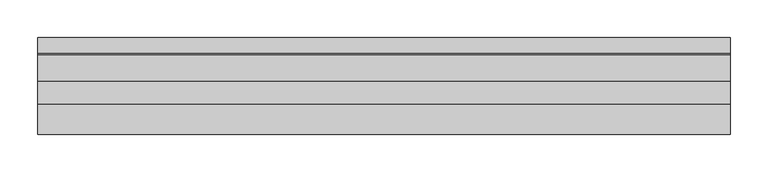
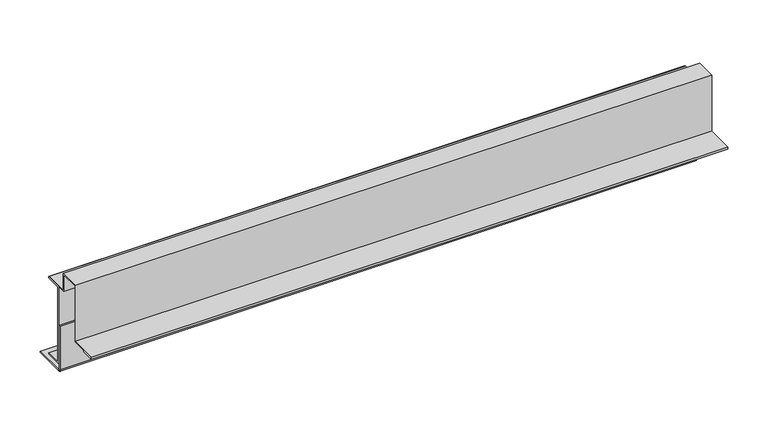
"""IFC4 building model written with IfcOpenShell, lengths in millimetres: proxy geometry, АК7_1 верх Обрамление оконного_дверного проема : АК7_1 верх Обрамление оконного_дверного проема."""

from ifc_helpers import new_model, si_unit, point, frame, frame_2d, origin, place, context, project, spatial, polyline, circle_curve, trimmed, segment, composite_curve, outline, extrude, source, transform, mapped, element, save


def generic_models_594ef7aa(model_context):
    return source(origin(), model_context, "Body", "SweptSolid", [
        extrude(outline(composite_curve([segment(polyline([(29.8704378, -153.0), (29.8704378, -155.0), (-16.1295622, -155.0)]), True, "CONTINUOUS"), segment(trimmed(circle_curve(frame_2d((-16.1295622, -151.0)), 4.0), [point((-16.1295622, -155.0))], [point((-20.1295622, -151.0))], False, "CARTESIAN"), True, "CONTINUOUS"), segment(polyline([(-20.1295622, -151.0), (-20.1295622, -85.0), (-18.1295622, -85.0), (-18.1295622, -151.0)]), True, "CONTINUOUS"), segment(trimmed(circle_curve(frame_2d((-16.1295622, -151.0)), 2.0), [point((-18.1295622, -151.0))], [point((-16.1295622, -153.0))], True, "CARTESIAN"), True, "CONTINUOUS"), segment(polyline([(-16.1295622, -153.0), (29.8704378, -153.0)]), True, "CONTINUOUS")], self_intersect=False)), frame((0.0, 0.0, 0.0), z_axis=(1.0, 0.0, 0.0), x_axis=(0.0, 1.0, 0.0)), (0.0, 0.0, 1.0), 915.0),
        extrude(outline(polyline([(-16.1295622, -26.5), (8.8704378, -26.5), (8.8704378, -28.5), (-14.1295622, -28.5), (-14.1295622, -142.5), (8.8704378, -142.5), (8.8704378, -144.5), (-16.1295622, -144.5), (-16.1295622, -26.5)])), frame((0.0, 0.0, 0.0), z_axis=(1.0, 0.0, 0.0), x_axis=(0.0, 1.0, 0.0)), (0.0, 0.0, 1.0), 915.0),
        extrude(outline(polyline([(6.9998693, -25.4999617), (6.9998693, -26.4999617), (-29.0001307, -26.4999617), (-29.0001307, -0.9999617), (-57.0001307, -0.9999617), (-57.0001307, -86.0), (-97.0001307, -86.0), (-97.0001307, -87.0000383), (-78.6125377, -87.0000383), (-78.6125377, -88.0000383), (-98.0001307, -88.0000383), (-98.0001307, -85.0), (-58.0001307, -85.0), (-58.0001307, 3.83e-05), (-28.0001307, 3.83e-05), (-28.0001307, -25.4999617), (6.9998693, -25.4999617)])), frame((0.0, 0.0, 0.0), z_axis=(1.0, 0.0, 0.0), x_axis=(0.0, 1.0, 0.0)), (0.0, 0.0, 1.0), 915.0),
    ])


if __name__ == "__main__":
    model = new_model("IFC4")
    model_context = context("Model", 3, world=origin())
    ifc_project = project(units=[si_unit("LENGTHUNIT", "METRE", prefix="MILLI")], contexts=[model_context])
    site = spatial("IfcSite", under=ifc_project)
    building = spatial("IfcBuilding", under=site)
    placement = place(None, origin())
    generic_models_shape = generic_models_594ef7aa(model_context)
    element("IfcBuildingElementProxy", 1, Name="АК7_1 верх Обрамление оконного_дверного проема : АК7_1 верх Обрамление оконного_дверного проема", ObjectType="АК7_1 верх Обрамление оконного_дверного проема : АК7_1 верх Обрамление оконного_дверного проема", at=placement, inside=building, context=model_context, shape_type="MappedRepresentation", body=[
        mapped(generic_models_shape, transform((0.0, 0.0, 0.0), x_axis=(1.0, 0.0, 0.0), y_axis=(0.0, 1.0, 0.0), z_axis=(0.0, 0.0, 1.0))),
    ])
    save(model, "model.ifc")
